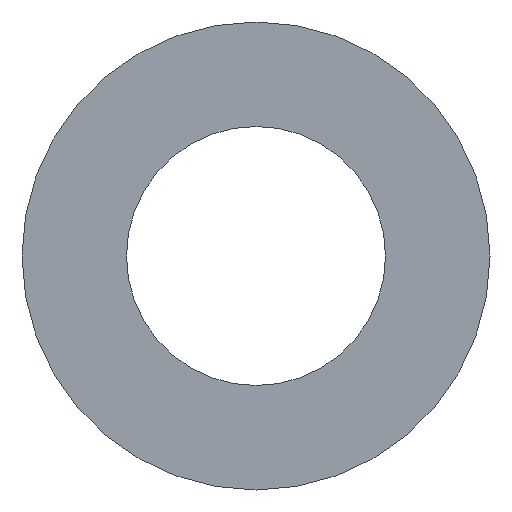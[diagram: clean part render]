
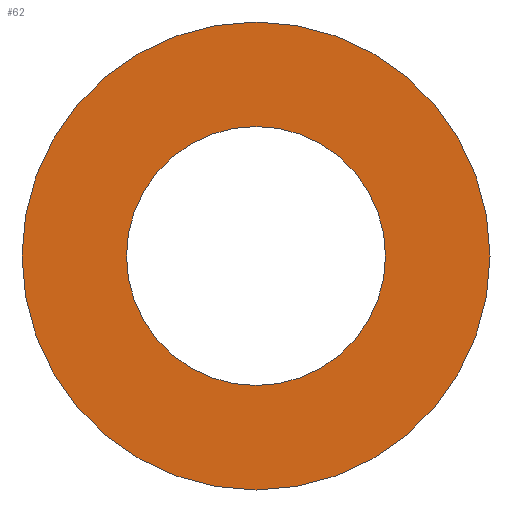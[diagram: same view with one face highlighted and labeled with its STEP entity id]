
A CAD part, front view. The second image highlights one B-rep face of the part: STEP entity #62.
In plain terms, the highlighted planar face has unit normal (0, -1, 0).
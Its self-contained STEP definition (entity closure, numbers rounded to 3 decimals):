
#20=PLANE('',#83);
#26=ORIENTED_EDGE('',*,*,#30,.T.);
#27=ORIENTED_EDGE('',*,*,#32,.F.);
#30=EDGE_CURVE('',#34,#34,#38,.T.);
#32=EDGE_CURVE('',#36,#36,#40,.T.);
#34=VERTEX_POINT('',#106);
#36=VERTEX_POINT('',#111);
#38=CIRCLE('',#78,46.5);
#40=CIRCLE('',#81,84.);
#46=EDGE_LOOP('',(#26));
#47=EDGE_LOOP('',(#27));
#54=FACE_BOUND('',#46,.T.);
#55=FACE_BOUND('',#47,.T.);
#62=ADVANCED_FACE('',(#54,#55),#20,.F.);
#78=AXIS2_PLACEMENT_3D('',#105,#89,#90);
#81=AXIS2_PLACEMENT_3D('',#110,#95,#96);
#83=AXIS2_PLACEMENT_3D('',#114,#99,#100);
#89=DIRECTION('',(0.,1.,0.));
#90=DIRECTION('',(1.,0.,0.));
#95=DIRECTION('',(0.,1.,0.));
#96=DIRECTION('',(1.,0.,0.));
#99=DIRECTION('',(0.,1.,0.));
#100=DIRECTION('',(0.,0.,1.));
#105=CARTESIAN_POINT('',(0.,-1.5,0.));
#106=CARTESIAN_POINT('',(46.5,-1.5,0.));
#110=CARTESIAN_POINT('',(0.,-1.5,0.));
#111=CARTESIAN_POINT('',(84.,-1.5,0.));
#114=CARTESIAN_POINT('',(0.,-1.5,0.));
